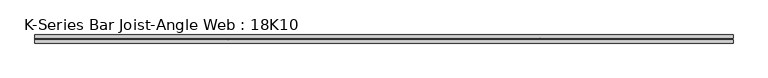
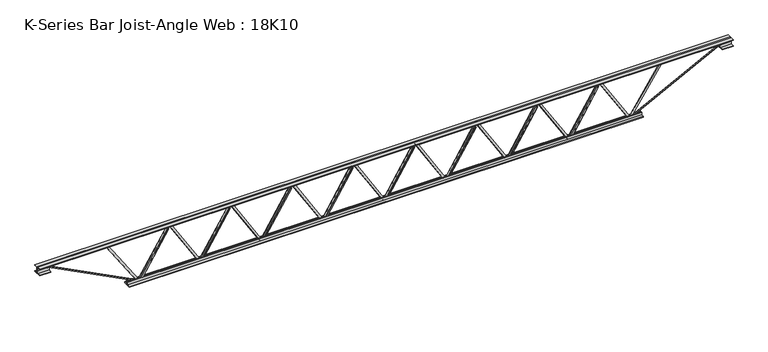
"""IFC4 building model written with IfcOpenShell, lengths in millimetres: beam geometry, K-Series Bar Joist-Angle Web : 18K10."""

from ifc_helpers import new_model, si_unit, frame, origin, place, context, project, spatial, polyline, outline, extrude, faceted_brep, source, transform, mapped, element, save


def k_series_bar_joist_angle_web_18k10_9bc89c3d(model_context):
    return source(origin(), model_context, "Body", "SolidModel", [
        extrude(outline(polyline([(-4.75, 4.7625), (-4.75, 0.0), (-17.45, 0.0), (-17.45, 4.7625), (-4.75, 4.7625)])), frame((1635.9680898, 0.0, -190.4), z_axis=(-0.5239363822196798, 0.0, 0.8517573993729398), x_axis=(0.0, -1.0, 0.0)), (0.0, 0.0, 1.0), 447.0756583),
        extrude(outline(polyline([(-225.325, 1669.125), (-206.275, 1669.125), (-206.275, 1668.098706), (225.325, 1402.611206), (225.325, 1384.5875), (206.275, 1384.5875), (206.275, 1391.963794), (-225.325, 1657.451294), (-225.325, 1669.125)])), frame((0.0, 0.0, 0.0), z_axis=(0.0, 1.0, 0.0), x_axis=(0.0, 0.0, 1.0)), (0.0, 0.0, 1.0), 4.75),
        faceted_brep([(1112.75, 0.0, -206.275), (1112.75, 0.0, -225.325), (1112.75, -4.75, -225.325), (1112.75, -4.75, -206.275), (1113.776294, 0.0, -206.275), (1379.263794, 0.0, 225.325), (1397.2875, 0.0, 225.325), (1397.2875, 0.0, 206.275), (1389.911206, 0.0, 206.275), (1124.423706, 0.0, -225.325), (1124.423706, -4.75, -225.325), (1145.9069102, -4.75, -190.4), (1141.8504156, -4.75, -187.904753), (1376.0896185, -4.75, 192.895247), (1380.1461132, -4.75, 190.4), (1389.911206, -4.75, 206.275), (1397.2875, -4.75, 206.275), (1397.2875, -4.75, 225.325), (1379.263794, -4.75, 225.325), (1113.776294, -4.75, -206.275), (1380.1461132, -17.4625, 190.4), (1145.9069102, -17.4625, -190.4), (1141.8504156, -17.4625, -187.904753), (1376.0896185, -17.4625, 192.895247)], [[[0, 1, 2, 3]], [[1, 0, 4, 5, 6, 7, 8, 9]], [[2, 1, 9, 10]], [[3, 2, 10, 11, 12, 13, 14, 15, 16, 17, 18, 19]], [[0, 3, 19, 4]], [[9, 8, 15, 14, 20, 21, 11, 10]], [[5, 4, 19, 18]], [[7, 6, 17, 16]], [[8, 7, 16, 15]], [[6, 5, 18, 17]], [[21, 22, 12, 11]], [[20, 14, 13, 23]], [[22, 21, 20, 23]], [[12, 22, 23, 13]]]),
        extrude(outline(polyline([(-4.75, 4.7625), (-4.75, 0.0), (-17.45, 0.0), (-17.45, 4.7625), (-4.75, 4.7625)])), frame((1079.5930898, 0.0, -190.4), z_axis=(-0.5239363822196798, 0.0, 0.8517573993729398), x_axis=(0.0, -1.0, 0.0)), (0.0, 0.0, 1.0), 447.0756583),
        extrude(outline(polyline([(-225.325, 1112.75), (-206.275, 1112.75), (-206.275, 1111.723706), (225.325, 846.236206), (225.325, 828.2125), (206.275, 828.2125), (206.275, 835.588794), (-225.325, 1101.076294), (-225.325, 1112.75)])), frame((0.0, 0.0, 0.0), z_axis=(0.0, 1.0, 0.0), x_axis=(0.0, 0.0, 1.0)), (0.0, 0.0, 1.0), 4.75),
        faceted_brep([(556.375, 0.0, -206.275), (556.375, 0.0, -225.325), (556.375, -4.75, -225.325), (556.375, -4.75, -206.275), (557.401294, 0.0, -206.275), (822.888794, 0.0, 225.325), (840.9125, 0.0, 225.325), (840.9125, 0.0, 206.275), (833.536206, 0.0, 206.275), (568.048706, 0.0, -225.325), (568.048706, -4.75, -225.325), (589.5319102, -4.75, -190.4), (585.4754156, -4.75, -187.904753), (819.7146185, -4.75, 192.895247), (823.7711132, -4.75, 190.4), (833.536206, -4.75, 206.275), (840.9125, -4.75, 206.275), (840.9125, -4.75, 225.325), (822.888794, -4.75, 225.325), (557.401294, -4.75, -206.275), (823.7711132, -17.4625, 190.4), (589.5319102, -17.4625, -190.4), (585.4754156, -17.4625, -187.904753), (819.7146185, -17.4625, 192.895247)], [[[0, 1, 2, 3]], [[1, 0, 4, 5, 6, 7, 8, 9]], [[2, 1, 9, 10]], [[3, 2, 10, 11, 12, 13, 14, 15, 16, 17, 18, 19]], [[0, 3, 19, 4]], [[9, 8, 15, 14, 20, 21, 11, 10]], [[5, 4, 19, 18]], [[7, 6, 17, 16]], [[8, 7, 16, 15]], [[6, 5, 18, 17]], [[21, 22, 12, 11]], [[20, 14, 13, 23]], [[22, 21, 20, 23]], [[12, 22, 23, 13]]]),
        extrude(outline(polyline([(-4.75, 4.7625), (-4.75, 0.0), (-17.45, 0.0), (-17.45, 4.7625), (-4.75, 4.7625)])), frame((523.2180898, 0.0, -190.4), z_axis=(-0.5239363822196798, 0.0, 0.8517573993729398), x_axis=(0.0, -1.0, 0.0)), (0.0, 0.0, 1.0), 447.0756583),
        extrude(outline(polyline([(-225.325, 556.375), (-206.275, 556.375), (-206.275, 555.348706), (225.325, 289.861206), (225.325, 271.8375), (206.275, 271.8375), (206.275, 279.213794), (-225.325, 544.701294), (-225.325, 556.375)])), frame((0.0, 0.0, 0.0), z_axis=(0.0, 1.0, 0.0), x_axis=(0.0, 0.0, 1.0)), (0.0, 0.0, 1.0), 4.75),
        faceted_brep([(0.0, 0.0, -206.275), (0.0, 0.0, -225.325), (0.0, -4.75, -225.325), (0.0, -4.75, -206.275), (1.026294, 0.0, -206.275), (266.513794, 0.0, 225.325), (284.5375, 0.0, 225.325), (284.5375, 0.0, 206.275), (277.161206, 0.0, 206.275), (11.673706, 0.0, -225.325), (11.673706, -4.75, -225.325), (33.1569102, -4.75, -190.4), (29.1004156, -4.75, -187.904753), (263.3396185, -4.75, 192.895247), (267.3961132, -4.75, 190.4), (277.161206, -4.75, 206.275), (284.5375, -4.75, 206.275), (284.5375, -4.75, 225.325), (266.513794, -4.75, 225.325), (1.026294, -4.75, -206.275), (267.3961132, -17.4625, 190.4), (33.1569102, -17.4625, -190.4), (29.1004156, -17.4625, -187.904753), (263.3396185, -17.4625, 192.895247)], [[[0, 1, 2, 3]], [[1, 0, 4, 5, 6, 7, 8, 9]], [[2, 1, 9, 10]], [[3, 2, 10, 11, 12, 13, 14, 15, 16, 17, 18, 19]], [[0, 3, 19, 4]], [[9, 8, 15, 14, 20, 21, 11, 10]], [[5, 4, 19, 18]], [[7, 6, 17, 16]], [[8, 7, 16, 15]], [[6, 5, 18, 17]], [[21, 22, 12, 11]], [[20, 14, 13, 23]], [[22, 21, 20, 23]], [[12, 22, 23, 13]]]),
        extrude(outline(polyline([(-4.75, 4.7625), (-4.75, 0.0), (-17.45, 0.0), (-17.45, 4.7625), (-4.75, 4.7625)])), frame((-33.1569102, 0.0, -190.4), z_axis=(-0.5239363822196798, 0.0, 0.8517573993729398), x_axis=(0.0, -1.0, 0.0)), (0.0, 0.0, 1.0), 447.0756583),
        extrude(outline(polyline([(-225.325, 0.0), (-206.275, 0.0), (-206.275, -1.026294), (225.325, -266.513794), (225.325, -284.5375), (206.275, -284.5375), (206.275, -277.161206), (-225.325, -11.673706), (-225.325, 0.0)])), frame((0.0, 0.0, 0.0), z_axis=(0.0, 1.0, 0.0), x_axis=(0.0, 0.0, 1.0)), (0.0, 0.0, 1.0), 4.75),
        faceted_brep([(-556.375, 0.0, -206.275), (-556.375, 0.0, -225.325), (-556.375, -4.75, -225.325), (-556.375, -4.75, -206.275), (-555.348706, 0.0, -206.275), (-289.861206, 0.0, 225.325), (-271.8375, 0.0, 225.325), (-271.8375, 0.0, 206.275), (-279.213794, 0.0, 206.275), (-544.701294, 0.0, -225.325), (-544.701294, -4.75, -225.325), (-523.2180898, -4.75, -190.4), (-527.2745844, -4.75, -187.904753), (-293.0353815, -4.75, 192.895247), (-288.9788868, -4.75, 190.4), (-279.213794, -4.75, 206.275), (-271.8375, -4.75, 206.275), (-271.8375, -4.75, 225.325), (-289.861206, -4.75, 225.325), (-555.348706, -4.75, -206.275), (-288.9788868, -17.4625, 190.4), (-523.2180898, -17.4625, -190.4), (-527.2745844, -17.4625, -187.904753), (-293.0353815, -17.4625, 192.895247)], [[[0, 1, 2, 3]], [[1, 0, 4, 5, 6, 7, 8, 9]], [[2, 1, 9, 10]], [[3, 2, 10, 11, 12, 13, 14, 15, 16, 17, 18, 19]], [[0, 3, 19, 4]], [[9, 8, 15, 14, 20, 21, 11, 10]], [[5, 4, 19, 18]], [[7, 6, 17, 16]], [[8, 7, 16, 15]], [[6, 5, 18, 17]], [[21, 22, 12, 11]], [[20, 14, 13, 23]], [[22, 21, 20, 23]], [[12, 22, 23, 13]]]),
        extrude(outline(polyline([(-4.75, 4.7625), (-4.75, 0.0), (-17.45, 0.0), (-17.45, 4.7625), (-4.75, 4.7625)])), frame((-589.5319102, 0.0, -190.4), z_axis=(-0.5239363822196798, 0.0, 0.8517573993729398), x_axis=(0.0, -1.0, 0.0)), (0.0, 0.0, 1.0), 447.0756583),
        extrude(outline(polyline([(-225.325, -556.375), (-206.275, -556.375), (-206.275, -557.401294), (225.325, -822.888794), (225.325, -840.9125), (206.275, -840.9125), (206.275, -833.536206), (-225.325, -568.048706), (-225.325, -556.375)])), frame((0.0, 0.0, 0.0), z_axis=(0.0, 1.0, 0.0), x_axis=(0.0, 0.0, 1.0)), (0.0, 0.0, 1.0), 4.75),
        faceted_brep([(-1112.75, 0.0, -206.275), (-1112.75, 0.0, -225.325), (-1112.75, -4.75, -225.325), (-1112.75, -4.75, -206.275), (-1111.723706, 0.0, -206.275), (-846.236206, 0.0, 225.325), (-828.2125, 0.0, 225.325), (-828.2125, 0.0, 206.275), (-835.588794, 0.0, 206.275), (-1101.076294, 0.0, -225.325), (-1101.076294, -4.75, -225.325), (-1079.5930898, -4.75, -190.4), (-1083.6495844, -4.75, -187.904753), (-849.4103815, -4.75, 192.895247), (-845.3538868, -4.75, 190.4), (-835.588794, -4.75, 206.275), (-828.2125, -4.75, 206.275), (-828.2125, -4.75, 225.325), (-846.236206, -4.75, 225.325), (-1111.723706, -4.75, -206.275), (-845.3538868, -17.4625, 190.4), (-1079.5930898, -17.4625, -190.4), (-1083.6495844, -17.4625, -187.904753), (-849.4103815, -17.4625, 192.895247)], [[[0, 1, 2, 3]], [[1, 0, 4, 5, 6, 7, 8, 9]], [[2, 1, 9, 10]], [[3, 2, 10, 11, 12, 13, 14, 15, 16, 17, 18, 19]], [[0, 3, 19, 4]], [[9, 8, 15, 14, 20, 21, 11, 10]], [[5, 4, 19, 18]], [[7, 6, 17, 16]], [[8, 7, 16, 15]], [[6, 5, 18, 17]], [[21, 22, 12, 11]], [[20, 14, 13, 23]], [[22, 21, 20, 23]], [[12, 22, 23, 13]]]),
        extrude(outline(polyline([(-4.75, 4.7625), (-4.75, 0.0), (-17.45, 0.0), (-17.45, 4.7625), (-4.75, 4.7625)])), frame((-1145.9069102, 0.0, -190.4), z_axis=(-0.5239363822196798, 0.0, 0.8517573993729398), x_axis=(0.0, -1.0, 0.0)), (0.0, 0.0, 1.0), 447.0756583),
        extrude(outline(polyline([(-225.325, -1112.75), (-206.275, -1112.75), (-206.275, -1113.776294), (225.325, -1379.263794), (225.325, -1397.2875), (206.275, -1397.2875), (206.275, -1389.911206), (-225.325, -1124.423706), (-225.325, -1112.75)])), frame((0.0, 0.0, 0.0), z_axis=(0.0, 1.0, 0.0), x_axis=(0.0, 0.0, 1.0)), (0.0, 0.0, 1.0), 4.75),
        faceted_brep([(-1669.125, 0.0, -206.275), (-1669.125, 0.0, -225.325), (-1669.125, -4.75, -225.325), (-1669.125, -4.75, -206.275), (-1668.098706, 0.0, -206.275), (-1402.611206, 0.0, 225.325), (-1384.5875, 0.0, 225.325), (-1384.5875, 0.0, 206.275), (-1391.963794, 0.0, 206.275), (-1657.451294, 0.0, -225.325), (-1657.451294, -4.75, -225.325), (-1635.9680898, -4.75, -190.4), (-1640.0245844, -4.75, -187.904753), (-1405.7853815, -4.75, 192.895247), (-1401.7288868, -4.75, 190.4), (-1391.963794, -4.75, 206.275), (-1384.5875, -4.75, 206.275), (-1384.5875, -4.75, 225.325), (-1402.611206, -4.75, 225.325), (-1668.098706, -4.75, -206.275), (-1401.7288868, -17.4625, 190.4), (-1635.9680898, -17.4625, -190.4), (-1640.0245844, -17.4625, -187.904753), (-1405.7853815, -17.4625, 192.895247)], [[[0, 1, 2, 3]], [[1, 0, 4, 5, 6, 7, 8, 9]], [[2, 1, 9, 10]], [[3, 2, 10, 11, 12, 13, 14, 15, 16, 17, 18, 19]], [[0, 3, 19, 4]], [[9, 8, 15, 14, 20, 21, 11, 10]], [[5, 4, 19, 18]], [[7, 6, 17, 16]], [[8, 7, 16, 15]], [[6, 5, 18, 17]], [[21, 22, 12, 11]], [[20, 14, 13, 23]], [[22, 21, 20, 23]], [[12, 22, 23, 13]]]),
        extrude(outline(polyline([(-4.75, 4.7625), (-4.75, 0.0), (-17.45, 0.0), (-17.45, 4.7625), (-4.75, 4.7625)])), frame((2192.3430898, 0.0, -190.4), z_axis=(-0.5239363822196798, 0.0, 0.8517573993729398), x_axis=(0.0, -1.0, 0.0)), (0.0, 0.0, 1.0), 447.0756583),
        extrude(outline(polyline([(-225.325, 2225.5), (-206.275, 2225.5), (-206.275, 2224.473706), (225.325, 1958.986206), (225.325, 1940.9625), (206.275, 1940.9625), (206.275, 1948.338794), (-225.325, 2213.826294), (-225.325, 2225.5)])), frame((0.0, 0.0, 0.0), z_axis=(0.0, 1.0, 0.0), x_axis=(0.0, 0.0, 1.0)), (0.0, 0.0, 1.0), 4.75),
        faceted_brep([(1669.125, 0.0, -206.275), (1669.125, 0.0, -225.325), (1669.125, -4.75, -225.325), (1669.125, -4.75, -206.275), (1670.151294, 0.0, -206.275), (1935.638794, 0.0, 225.325), (1953.6625, 0.0, 225.325), (1953.6625, 0.0, 206.275), (1946.286206, 0.0, 206.275), (1680.798706, 0.0, -225.325), (1680.798706, -4.75, -225.325), (1702.2819102, -4.75, -190.4), (1698.2254156, -4.75, -187.904753), (1932.4646185, -4.75, 192.895247), (1936.5211132, -4.75, 190.4), (1946.286206, -4.75, 206.275), (1953.6625, -4.75, 206.275), (1953.6625, -4.75, 225.325), (1935.638794, -4.75, 225.325), (1670.151294, -4.75, -206.275), (1936.5211132, -17.4625, 190.4), (1702.2819102, -17.4625, -190.4), (1698.2254156, -17.4625, -187.904753), (1932.4646185, -17.4625, 192.895247)], [[[0, 1, 2, 3]], [[1, 0, 4, 5, 6, 7, 8, 9]], [[2, 1, 9, 10]], [[3, 2, 10, 11, 12, 13, 14, 15, 16, 17, 18, 19]], [[0, 3, 19, 4]], [[9, 8, 15, 14, 20, 21, 11, 10]], [[5, 4, 19, 18]], [[7, 6, 17, 16]], [[8, 7, 16, 15]], [[6, 5, 18, 17]], [[21, 22, 12, 11]], [[20, 14, 13, 23]], [[22, 21, 20, 23]], [[12, 22, 23, 13]]]),
        extrude(outline(polyline([(-4.75, 4.7625), (-4.75, 0.0), (-17.45, 0.0), (-17.45, 4.7625), (-4.75, 4.7625)])), frame((-1702.2819102, 0.0, -190.4), z_axis=(-0.5239363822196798, 0.0, 0.8517573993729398), x_axis=(0.0, -1.0, 0.0)), (0.0, 0.0, 1.0), 447.0756583),
        extrude(outline(polyline([(-225.325, -1669.125), (-206.275, -1669.125), (-206.275, -1670.151294), (225.325, -1935.638794), (225.325, -1953.6625), (206.275, -1953.6625), (206.275, -1946.286206), (-225.325, -1680.798706), (-225.325, -1669.125)])), frame((0.0, 0.0, 0.0), z_axis=(0.0, 1.0, 0.0), x_axis=(0.0, 0.0, 1.0)), (0.0, 0.0, 1.0), 4.75),
        faceted_brep([(-2225.5, 0.0, -206.275), (-2225.5, 0.0, -225.325), (-2225.5, -4.75, -225.325), (-2225.5, -4.75, -206.275), (-2224.473706, 0.0, -206.275), (-1958.986206, 0.0, 225.325), (-1940.9625, 0.0, 225.325), (-1940.9625, 0.0, 206.275), (-1948.338794, 0.0, 206.275), (-2213.826294, 0.0, -225.325), (-2213.826294, -4.75, -225.325), (-2192.3430898, -4.75, -190.4), (-2196.3995844, -4.75, -187.904753), (-1962.1603815, -4.75, 192.895247), (-1958.1038868, -4.75, 190.4), (-1948.338794, -4.75, 206.275), (-1940.9625, -4.75, 206.275), (-1940.9625, -4.75, 225.325), (-1958.986206, -4.75, 225.325), (-2224.473706, -4.75, -206.275), (-1958.1038868, -17.4625, 190.4), (-2192.3430898, -17.4625, -190.4), (-2196.3995844, -17.4625, -187.904753), (-1962.1603815, -17.4625, 192.895247)], [[[0, 1, 2, 3]], [[1, 0, 4, 5, 6, 7, 8, 9]], [[2, 1, 9, 10]], [[3, 2, 10, 11, 12, 13, 14, 15, 16, 17, 18, 19]], [[0, 3, 19, 4]], [[9, 8, 15, 14, 20, 21, 11, 10]], [[5, 4, 19, 18]], [[7, 6, 17, 16]], [[8, 7, 16, 15]], [[6, 5, 18, 17]], [[21, 22, 12, 11]], [[20, 14, 13, 23]], [[22, 21, 20, 23]], [[12, 22, 23, 13]]]),
        extrude(outline(polyline([(4.75, 228.5), (36.75, 228.5), (36.75, 222.0), (11.25, 222.0), (11.25, 196.5), (4.75, 196.5), (4.75, 228.5)])), frame((-3139.5, 0.0, 0.0), z_axis=(1.0, 0.0, 0.0), x_axis=(0.0, 1.0, 0.0)), (0.0, 0.0, 1.0), 6279.0),
        extrude(outline(polyline([(-4.75, 228.5), (-4.75, 196.5), (-11.25, 196.5), (-11.25, 222.0), (-36.75, 222.0), (-36.75, 228.5), (-4.75, 228.5)])), frame((-3139.5, 0.0, 0.0), z_axis=(1.0, 0.0, 0.0), x_axis=(0.0, 1.0, 0.0)), (0.0, 0.0, 1.0), 6279.0),
        extrude(outline(polyline([(4.75, -228.5), (4.75, -196.5), (11.25, -196.5), (11.25, -222.0), (36.75, -222.0), (36.75, -228.5), (4.75, -228.5)])), frame((-2325.5, 0.0, 0.0), z_axis=(1.0, 0.0, 0.0), x_axis=(0.0, 1.0, 0.0)), (0.0, 0.0, 1.0), 4651.0),
        extrude(outline(polyline([(-4.75, -228.5), (-36.75, -228.5), (-36.75, -222.0), (-11.25, -222.0), (-11.25, -196.5), (-4.75, -196.5), (-4.75, -228.5)])), frame((-2325.5, 0.0, 0.0), z_axis=(1.0, 0.0, 0.0), x_axis=(0.0, 1.0, 0.0)), (0.0, 0.0, 1.0), 4651.0),
        extrude(outline(polyline([(4.75, 165.0), (4.75, 196.5), (11.25, 196.5), (11.25, 171.5), (36.75, 171.5), (36.75, 165.0), (4.75, 165.0)])), frame((3039.5, 0.0, 0.0), z_axis=(1.0, 0.0, 0.0), x_axis=(0.0, 1.0, 0.0)), (0.0, 0.0, 1.0), 100.0),
        extrude(outline(polyline([(-4.75, 165.0), (-36.75, 165.0), (-36.75, 171.5), (-11.25, 171.5), (-11.25, 196.5), (-4.75, 196.5), (-4.75, 165.0)])), frame((3039.5, 0.0, 0.0), z_axis=(1.0, 0.0, 0.0), x_axis=(0.0, 1.0, 0.0)), (0.0, 0.0, 1.0), 100.0),
        extrude(outline(polyline([(-4.75, 165.0), (-36.75, 165.0), (-36.75, 171.5), (-11.25, 171.5), (-11.25, 196.5), (-4.75, 196.5), (-4.75, 165.0)])), frame((-3139.5, 0.0, 0.0), z_axis=(1.0, 0.0, 0.0), x_axis=(0.0, 1.0, 0.0)), (0.0, 0.0, 1.0), 100.0),
        extrude(outline(polyline([(36.75, 165.0), (4.75, 165.0), (4.75, 196.5), (11.25, 196.5), (11.25, 171.5), (36.75, 171.5), (36.75, 165.0)])), frame((-3139.5, 0.0, 0.0), z_axis=(1.0, 0.0, 0.0), x_axis=(0.0, 1.0, 0.0)), (0.0, 0.0, 1.0), 100.0),
        extrude(outline(polyline([(219.4566712, -2523.6446429), (200.4066712, -2523.6446429), (200.4066712, -2515.8059133), (-227.1386109, -2233.0429143), (-216.6299763, -2217.1535752), (219.4566712, -2505.5655246), (219.4566712, -2523.6446429)])), frame((0.0, 0.0, 0.0), z_axis=(0.0, 1.0, 0.0), x_axis=(0.0, 0.0, 1.0)), (0.0, 0.0, 1.0), 4.7625),
        extrude(outline(polyline([(-4.7625, -10.5646146), (-4.7625, 8.4853854), (0.0, 8.4853854), (0.0, -10.5646146), (-4.7625, -10.5646146)])), frame((2225.5, 0.0, -222.15), z_axis=(0.5534427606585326, 0.0, 0.8328872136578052), x_axis=(0.0, -1.0, 0.0)), (0.0, 0.0, 1.0), 502.64909),
        extrude(outline(polyline([(-226.3740718, -2227.672491), (-217.9259282, -2223.327509), (201.25, -3038.3500948), (201.25, -3139.5), (191.75, -3139.5), (191.75, -3040.6499052), (-226.3740718, -2227.672491)])), frame((0.0, -4.75, 0.0), z_axis=(0.0, 1.0, 0.0), x_axis=(0.0, 0.0, 1.0)), (0.0, 0.0, 1.0), 9.5),
        extrude(outline(polyline([(0.0, -9.5), (0.0, 0.0), (915.3490168, 0.0), (915.3490168, -9.5), (0.0, -9.5)])), frame((3041.672491, -4.75, 192.2759282), z_axis=(-0.4573665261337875, 0.0, 0.8892782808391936), x_axis=(-0.8892782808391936, 0.0, -0.4573665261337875)), (0.0, 0.0, 1.0), 9.5),
    ])


if __name__ == "__main__":
    model = new_model("IFC4")
    model_context = context("Model", 3, world=origin())
    ifc_project = project(units=[si_unit("LENGTHUNIT", "METRE", prefix="MILLI")], contexts=[model_context])
    site = spatial("IfcSite", under=ifc_project)
    building = spatial("IfcBuilding", under=site)
    placement = place(None, origin())
    k_series_bar_joist_angle_web_18k10_shape = k_series_bar_joist_angle_web_18k10_9bc89c3d(model_context)
    element("IfcBeam", 1, ObjectType="K-Series Bar Joist-Angle Web : 18K10", at=placement, inside=building, context=model_context, shape_type="MappedRepresentation", body=[
        mapped(k_series_bar_joist_angle_web_18k10_shape, transform((0.0, 0.0, 0.0), x_axis=(1.0, 0.0, 0.0), y_axis=(0.0, 1.0, 0.0), z_axis=(0.0, 0.0, 1.0))),
    ])
    save(model, "model.ifc")
